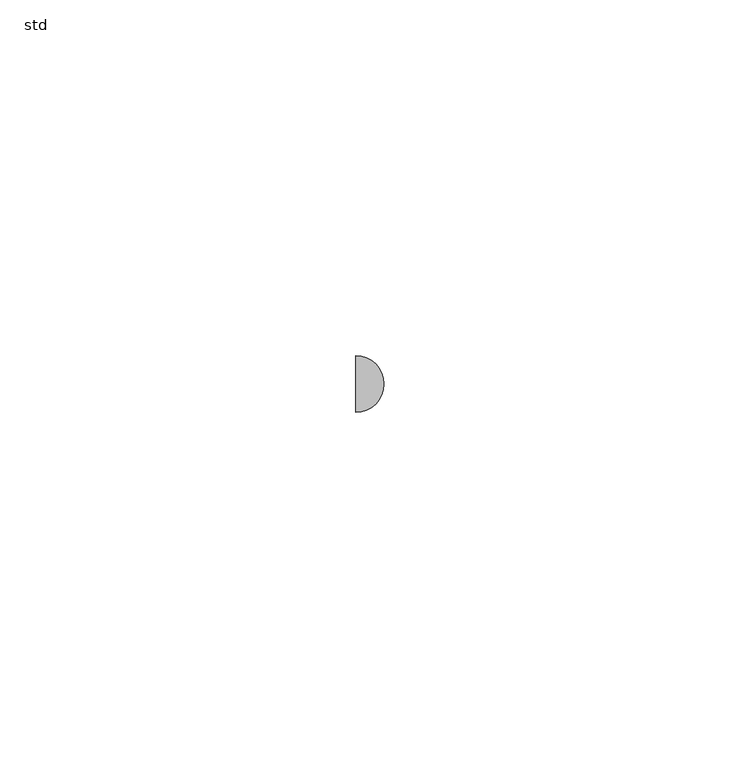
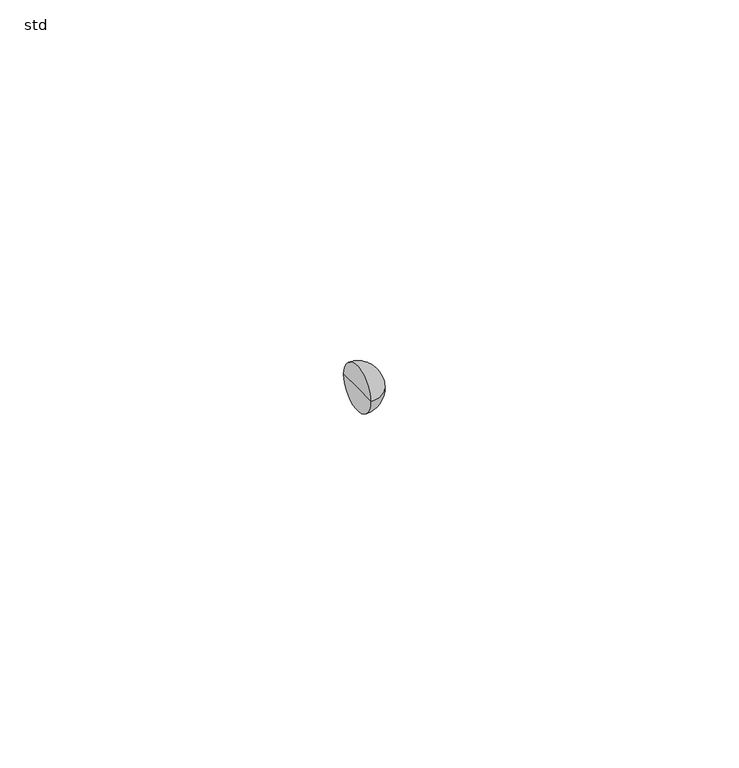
"""IFC4 building model written with IfcOpenShell, lengths in millimetres: pipe fitting geometry, PIF_ST_UN_GM-X double bend_ACO : std."""

from ifc_helpers import new_model, si_unit, point, frame, origin, place, context, project, spatial, circle_curve, ellipse_curve, trimmed, source, transform, mapped, element, save
from ifc_brep_helpers import plane_surface, revolved_surface, advanced_brep


def std_727ca654(model_context):
    return source(origin(), model_context, "Body", "AdvancedBrep", [
        advanced_brep(
        [(-178.9316122, -4.0, 0.0), (-178.9316122, 4.0, 0.0), (-174.9316122, 0.0, 0.0), (-178.9316122, 0.0, 0.0)],
        [
            (0, 1, circle_curve(frame((-178.9316122, 0.0, 0.0), z_axis=(1.0, 0.0, 0.0), x_axis=(0.0, 1.0, 0.0)), 4.0)),
            (1, 2, circle_curve(frame((-178.9316122, 0.0, 0.0), z_axis=(0.0, 0.0, -1.0), x_axis=(-1.0, 0.0, 0.0)), 4.0)),
            (2, 0, circle_curve(frame((-178.9316122, 0.0, 0.0), z_axis=(0.0, 0.0, -1.0), x_axis=(-1.0, 0.0, 0.0)), 4.0)),
            (1, 0, circle_curve(frame((-178.9316122, 0.0, 0.0), z_axis=(1.0, 0.0, 0.0), x_axis=(0.0, 1.0, 0.0)), 4.0)),
            (3, 1),
            (0, 3),
        ],
        [
            revolved_surface(trimmed(ellipse_curve(frame((-178.9316122, 0.0, 0.0), z_axis=(0.0, 0.0, 1.0), x_axis=(-1.0, 0.0, 0.0)), 4.0, 4.0), [point((-174.9316122, 0.0, 0.0))], [point((-178.9316122, 4.0, 0.0))], True, "CARTESIAN"), (-185.9232896, 0.0, 0.0), (-1.0, 0.0, 0.0)),
            plane_surface(frame((-178.9316122, 0.0, 0.0), z_axis=(-1.0, 0.0, 0.0), x_axis=(0.0, 1.0, 0.0))),
        ],
        [
            (0, [[1, 2, 3]]),
            (0, [[4, -3, -2]]),
            (1, [[5, -1, 6]]),
            (1, [[-6, -4, -5]]),
        ],
    ),
    ])


if __name__ == "__main__":
    model = new_model("IFC4")
    model_context = context("Model", 3, world=origin())
    ifc_project = project(units=[si_unit("LENGTHUNIT", "METRE", prefix="MILLI")], contexts=[model_context])
    site = spatial("IfcSite", under=ifc_project)
    building = spatial("IfcBuilding", under=site)
    placement = place(None, origin())
    std_shape = std_727ca654(model_context)
    element("IfcPipeFitting", 1, ObjectType="PIF_ST_UN_GM-X double bend_ACO : std", at=placement, inside=building, context=model_context, shape_type="MappedRepresentation", body=[
        mapped(std_shape, transform((0.0, 0.0, 0.0), x_axis=(1.0, 0.0, 0.0), y_axis=(0.0, 1.0, 0.0), z_axis=(0.0, 0.0, 1.0))),
    ])
    save(model, "model.ifc")
